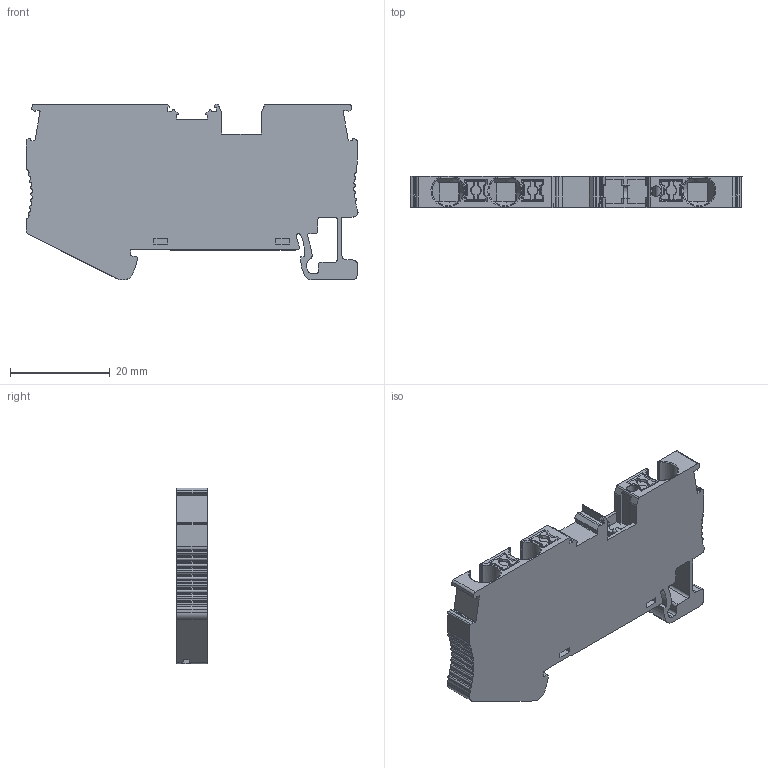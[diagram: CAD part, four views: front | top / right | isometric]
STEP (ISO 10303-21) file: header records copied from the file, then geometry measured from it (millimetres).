
FILE_DESCRIPTION((''),'2;1');
FILE_NAME('ADMI34C4530DHLNT_17','2024-04-01T14:02:25',('Administrator'),(''),'CREO PARAMETRIC BY PTC INC, 2018050','CREO PARAMETRIC BY PTC INC, 2018050','');
FILE_SCHEMA(('CONFIG_CONTROL_DESIGN'));
Length unit declared in the file: millimetre
Products named in the file (1): ADMI34C4530DHLNT_17
Bounding box: 66.54 x 6.2 x 35.25 mm (x, y, z)
Volume: 10099.2 mm3; surface area: 7381.7 mm2
Topology: 1 solids, 6 shells, 776 faces, 2208 edges, 1446 vertices
Faces by surface type: plane 450, cylinder 273, torus 18, cone 17, extrusion 12, bspline 6
Entity records: 26111 total; most frequent: CARTESIAN_POINT 5826, ORIENTED_EDGE 4408, DIRECTION 4040, EDGE_CURVE 2204, VECTOR 1518, LINE 1506, VERTEX_POINT 1446, AXIS2_PLACEMENT_3D 1261
